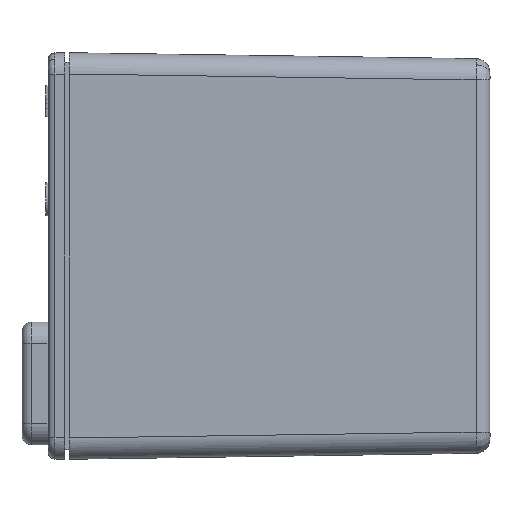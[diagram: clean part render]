
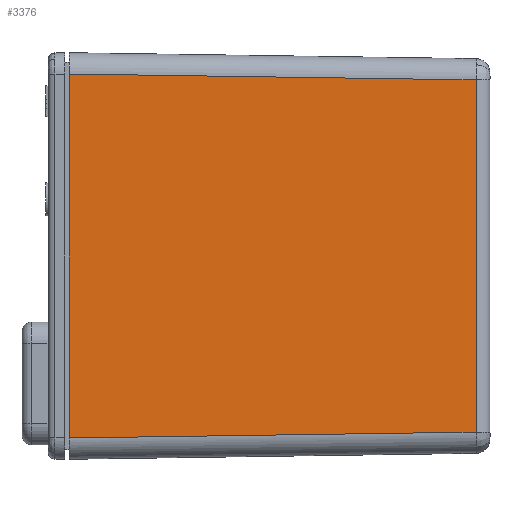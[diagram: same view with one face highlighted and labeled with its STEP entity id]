
A CAD part, left-side view. The second image highlights one B-rep face of the part: STEP entity #3376.
In plain terms, the highlighted planar face has unit normal (-1, -0.015, 0).
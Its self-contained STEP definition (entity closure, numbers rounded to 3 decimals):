
#210 = LINE ( 'NONE', #745, #1619 ) ;
#215 = ORIENTED_EDGE ( 'NONE', *, *, #1525, .T. ) ;
#338 = FACE_OUTER_BOUND ( 'NONE', #2844, .T. ) ;
#368 = LINE ( 'NONE', #1505, #1783 ) ;
#373 = DIRECTION ( 'NONE',  ( 0.015, -1., 0. ) ) ;
#378 = DIRECTION ( 'NONE',  ( -1., -0.015, 0. ) ) ;
#390 = CARTESIAN_POINT ( 'NONE',  ( -68.75, 0., 43. ) ) ;
#397 = PLANE ( 'NONE',  #2974 ) ;
#483 = CARTESIAN_POINT ( 'NONE',  ( -68.75, 0., -38.5 ) ) ;
#508 = VECTOR ( 'NONE', #795, 1000. ) ;
#597 = LINE ( 'NONE', #661, #508 ) ;
#624 = VERTEX_POINT ( 'NONE', #3142 ) ;
#661 = CARTESIAN_POINT ( 'NONE',  ( -68.75, 0., 43. ) ) ;
#745 = CARTESIAN_POINT ( 'NONE',  ( -68.751, 0.065, 38.501 ) ) ;
#795 = DIRECTION ( 'NONE',  ( 0., 0., 1. ) ) ;
#1036 = VERTEX_POINT ( 'NONE', #1988 ) ;
#1067 = EDGE_CURVE ( 'NONE', #1036, #624, #210, .T. ) ;
#1082 = LINE ( 'NONE', #3505, #3234 ) ;
#1093 = VERTEX_POINT ( 'NONE', #483 ) ;
#1505 = CARTESIAN_POINT ( 'NONE',  ( -67.5, -86.044, 43. ) ) ;
#1525 = EDGE_CURVE ( 'NONE', #3606, #1036, #368, .T. ) ;
#1534 = DIRECTION ( 'NONE',  ( 0., 0., 1. ) ) ;
#1619 = VECTOR ( 'NONE', #2664, 1000. ) ;
#1767 = ORIENTED_EDGE ( 'NONE', *, *, #2384, .T. ) ;
#1783 = VECTOR ( 'NONE', #1534, 1000. ) ;
#1988 = CARTESIAN_POINT ( 'NONE',  ( -67.5, -86.044, 37.251 ) ) ;
#2384 = EDGE_CURVE ( 'NONE', #1093, #3606, #1082, .T. ) ;
#2664 = DIRECTION ( 'NONE',  ( -0.015, 1., 0.015 ) ) ;
#2844 = EDGE_LOOP ( 'NONE', ( #1767, #215, #3256, #3546 ) ) ;
#2974 = AXIS2_PLACEMENT_3D ( 'NONE', #390, #378, #373 ) ;
#3114 = CARTESIAN_POINT ( 'NONE',  ( -67.5, -86.044, -37.251 ) ) ;
#3142 = CARTESIAN_POINT ( 'NONE',  ( -68.75, 0., 38.5 ) ) ;
#3234 = VECTOR ( 'NONE', #3331, 1000. ) ;
#3256 = ORIENTED_EDGE ( 'NONE', *, *, #1067, .T. ) ;
#3284 = EDGE_CURVE ( 'NONE', #1093, #624, #597, .T. ) ;
#3331 = DIRECTION ( 'NONE',  ( 0.015, -1., 0.015 ) ) ;
#3376 = ADVANCED_FACE ( 'NONE', ( #338 ), #397, .T. ) ;
#3505 = CARTESIAN_POINT ( 'NONE',  ( -68.733, -1.183, -38.483 ) ) ;
#3546 = ORIENTED_EDGE ( 'NONE', *, *, #3284, .F. ) ;
#3606 = VERTEX_POINT ( 'NONE', #3114 ) ;
